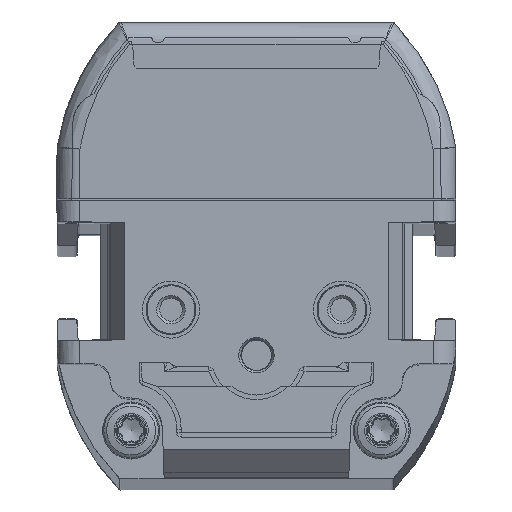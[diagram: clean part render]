
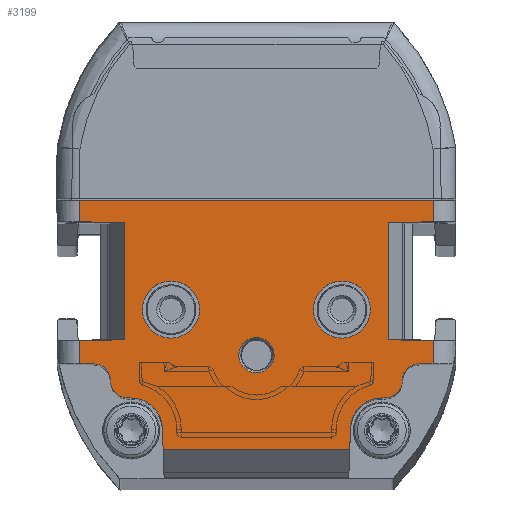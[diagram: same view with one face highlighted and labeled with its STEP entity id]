
A CAD part, top view. The second image highlights one B-rep face of the part: STEP entity #3199.
In plain terms, the highlighted planar face has unit normal (0, 0, 1).
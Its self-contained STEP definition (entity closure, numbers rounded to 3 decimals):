
#1297=FACE_BOUND('',#5329,.T.);
#1298=FACE_BOUND('',#5330,.T.);
#1299=FACE_BOUND('',#5331,.T.);
#1300=FACE_BOUND('',#5332,.T.);
#1824=CIRCLE('',#16890,1.5);
#1825=CIRCLE('',#16892,1.5);
#1826=CIRCLE('',#16895,2.75);
#1841=CIRCLE('',#16962,1.5);
#1842=CIRCLE('',#16964,1.5);
#1844=CIRCLE('',#16974,2.75);
#1845=CIRCLE('',#16982,2.5);
#1846=CIRCLE('',#16983,2.5);
#1847=CIRCLE('',#16984,1.55);
#3199=ADVANCED_FACE('',(#1297,#1298,#1299,#1300),#3772,.T.);
#3772=PLANE('',#16985);
#5329=EDGE_LOOP('',(#8247,#8248,#8249,#8250,#8251,#8252,#8253,#8254,#8255,
#8256,#8257,#8258,#8259,#8260,#8261,#8262,#8263,#8264,#8265,#8266,#8267,
#8268,#8269,#8270,#8271,#8272));
#5330=EDGE_LOOP('',(#8273));
#5331=EDGE_LOOP('',(#8274));
#5332=EDGE_LOOP('',(#8275));
#8247=ORIENTED_EDGE('',*,*,#12813,.F.);
#8248=ORIENTED_EDGE('',*,*,#12812,.T.);
#8249=ORIENTED_EDGE('',*,*,#12809,.T.);
#8250=ORIENTED_EDGE('',*,*,#12804,.T.);
#8251=ORIENTED_EDGE('',*,*,#12998,.T.);
#8252=ORIENTED_EDGE('',*,*,#12999,.T.);
#8253=ORIENTED_EDGE('',*,*,#13000,.T.);
#8254=ORIENTED_EDGE('',*,*,#13001,.T.);
#8255=ORIENTED_EDGE('',*,*,#13002,.T.);
#8256=ORIENTED_EDGE('',*,*,#12929,.F.);
#8257=ORIENTED_EDGE('',*,*,#12940,.F.);
#8258=ORIENTED_EDGE('',*,*,#12925,.F.);
#8259=ORIENTED_EDGE('',*,*,#13003,.T.);
#8260=ORIENTED_EDGE('',*,*,#13004,.F.);
#8261=ORIENTED_EDGE('',*,*,#13005,.T.);
#8262=ORIENTED_EDGE('',*,*,#13006,.F.);
#8263=ORIENTED_EDGE('',*,*,#13007,.T.);
#8264=ORIENTED_EDGE('',*,*,#12966,.F.);
#8265=ORIENTED_EDGE('',*,*,#12964,.T.);
#8266=ORIENTED_EDGE('',*,*,#12963,.T.);
#8267=ORIENTED_EDGE('',*,*,#12959,.F.);
#8268=ORIENTED_EDGE('',*,*,#12983,.F.);
#8269=ORIENTED_EDGE('',*,*,#12978,.F.);
#8270=ORIENTED_EDGE('',*,*,#13008,.T.);
#8271=ORIENTED_EDGE('',*,*,#12823,.F.);
#8272=ORIENTED_EDGE('',*,*,#12816,.F.);
#8273=ORIENTED_EDGE('',*,*,#13009,.F.);
#8274=ORIENTED_EDGE('',*,*,#13010,.F.);
#8275=ORIENTED_EDGE('',*,*,#13011,.T.);
#10962=VERTEX_POINT('',#30975);
#10963=VERTEX_POINT('',#30976);
#10966=VERTEX_POINT('',#30993);
#10967=VERTEX_POINT('',#30997);
#10968=VERTEX_POINT('',#31001);
#10969=VERTEX_POINT('',#31005);
#10976=VERTEX_POINT('',#31021);
#11060=VERTEX_POINT('',#31290);
#11064=VERTEX_POINT('',#31298);
#11067=VERTEX_POINT('',#31306);
#11068=VERTEX_POINT('',#31308);
#11086=VERTEX_POINT('',#31543);
#11087=VERTEX_POINT('',#31544);
#11088=VERTEX_POINT('',#31549);
#11089=VERTEX_POINT('',#31553);
#11090=VERTEX_POINT('',#31557);
#11099=VERTEX_POINT('',#31772);
#11100=VERTEX_POINT('',#31774);
#11111=VERTEX_POINT('',#31813);
#11112=VERTEX_POINT('',#31815);
#11113=VERTEX_POINT('',#31817);
#11114=VERTEX_POINT('',#31819);
#11115=VERTEX_POINT('',#31822);
#11116=VERTEX_POINT('',#31824);
#11117=VERTEX_POINT('',#31826);
#11118=VERTEX_POINT('',#31828);
#11119=VERTEX_POINT('',#31832);
#11120=VERTEX_POINT('',#31834);
#11121=VERTEX_POINT('',#31836);
#12804=EDGE_CURVE('',#10962,#10963,#14477,.T.);
#12809=EDGE_CURVE('',#10966,#10962,#1824,.T.);
#12812=EDGE_CURVE('',#10967,#10966,#1825,.T.);
#12813=EDGE_CURVE('',#10967,#10968,#14481,.T.);
#12816=EDGE_CURVE('',#10968,#10969,#1826,.T.);
#12823=EDGE_CURVE('',#10969,#10976,#14487,.T.);
#12925=EDGE_CURVE('',#11064,#11060,#14555,.T.);
#12929=EDGE_CURVE('',#11067,#11068,#14559,.T.);
#12940=EDGE_CURVE('',#11060,#11067,#14566,.T.);
#12959=EDGE_CURVE('',#11086,#11087,#14575,.T.);
#12963=EDGE_CURVE('',#11088,#11087,#1841,.T.);
#12964=EDGE_CURVE('',#11089,#11088,#1842,.T.);
#12966=EDGE_CURVE('',#11089,#11090,#14580,.T.);
#12978=EDGE_CURVE('',#11099,#11100,#14584,.T.);
#12983=EDGE_CURVE('',#11100,#11086,#1844,.T.);
#12998=EDGE_CURVE('',#10963,#11111,#14601,.T.);
#12999=EDGE_CURVE('',#11111,#11112,#14602,.T.);
#13000=EDGE_CURVE('',#11112,#11113,#14603,.T.);
#13001=EDGE_CURVE('',#11113,#11114,#14604,.T.);
#13002=EDGE_CURVE('',#11114,#11068,#14605,.T.);
#13003=EDGE_CURVE('',#11064,#11115,#14606,.T.);
#13004=EDGE_CURVE('',#11116,#11115,#14607,.T.);
#13005=EDGE_CURVE('',#11116,#11117,#14608,.T.);
#13006=EDGE_CURVE('',#11118,#11117,#14609,.T.);
#13007=EDGE_CURVE('',#11118,#11090,#14610,.T.);
#13008=EDGE_CURVE('',#11099,#10976,#14611,.T.);
#13009=EDGE_CURVE('',#11119,#11119,#1845,.T.);
#13010=EDGE_CURVE('',#11120,#11120,#1846,.T.);
#13011=EDGE_CURVE('',#11121,#11121,#1847,.T.);
#14477=LINE('',#30974,#15652);
#14481=LINE('',#31000,#15656);
#14487=LINE('',#31020,#15662);
#14555=LINE('',#31299,#15730);
#14559=LINE('',#31307,#15734);
#14566=LINE('',#31328,#15741);
#14575=LINE('',#31542,#15750);
#14580=LINE('',#31556,#15755);
#14584=LINE('',#31773,#15759);
#14601=LINE('',#31812,#15776);
#14602=LINE('',#31814,#15777);
#14603=LINE('',#31816,#15778);
#14604=LINE('',#31818,#15779);
#14605=LINE('',#31820,#15780);
#14606=LINE('',#31821,#15781);
#14607=LINE('',#31823,#15782);
#14608=LINE('',#31825,#15783);
#14609=LINE('',#31827,#15784);
#14610=LINE('',#31829,#15785);
#14611=LINE('',#31830,#15786);
#15652=VECTOR('',#19448,1.);
#15656=VECTOR('',#19464,1.);
#15662=VECTOR('',#19482,1.);
#15730=VECTOR('',#19630,1.);
#15734=VECTOR('',#19636,1.);
#15741=VECTOR('',#19659,1.);
#15750=VECTOR('',#19692,1.);
#15755=VECTOR('',#19707,1.);
#15759=VECTOR('',#19721,1.);
#15776=VECTOR('',#19760,1.);
#15777=VECTOR('',#19761,1.);
#15778=VECTOR('',#19762,1.);
#15779=VECTOR('',#19763,1.);
#15780=VECTOR('',#19764,1.);
#15781=VECTOR('',#19765,1.);
#15782=VECTOR('',#19766,1.);
#15783=VECTOR('',#19767,1.);
#15784=VECTOR('',#19768,1.);
#15785=VECTOR('',#19769,1.);
#15786=VECTOR('',#19770,1.);
#16890=AXIS2_PLACEMENT_3D('',#30992,#19454,#19455);
#16892=AXIS2_PLACEMENT_3D('',#30998,#19460,#19461);
#16895=AXIS2_PLACEMENT_3D('',#31006,#19469,#19470);
#16962=AXIS2_PLACEMENT_3D('',#31550,#19698,#19699);
#16964=AXIS2_PLACEMENT_3D('',#31552,#19702,#19703);
#16974=AXIS2_PLACEMENT_3D('',#31782,#19730,#19731);
#16982=AXIS2_PLACEMENT_3D('',#31831,#19771,#19772);
#16983=AXIS2_PLACEMENT_3D('',#31833,#19773,#19774);
#16984=AXIS2_PLACEMENT_3D('',#31835,#19775,#19776);
#16985=AXIS2_PLACEMENT_3D('',#31837,#19777,#19778);
#19448=DIRECTION('',(1.,0.,0.));
#19454=DIRECTION('',(0.,0.,-1.));
#19455=DIRECTION('',(1.,0.,0.));
#19460=DIRECTION('',(0.,0.,1.));
#19461=DIRECTION('',(1.,0.,0.));
#19464=DIRECTION('',(-1.,0.,0.));
#19469=DIRECTION('',(0.,0.,1.));
#19470=DIRECTION('',(1.,0.,0.));
#19482=DIRECTION('',(-0.035,-0.999,0.));
#19630=DIRECTION('',(1.,0.017,0.));
#19636=DIRECTION('',(1.,-0.017,0.));
#19659=DIRECTION('',(1.,0.,0.));
#19692=DIRECTION('',(-1.,0.,0.));
#19698=DIRECTION('',(0.,0.,1.));
#19699=DIRECTION('',(1.,0.,0.));
#19702=DIRECTION('',(0.,0.,-1.));
#19703=DIRECTION('',(1.,0.,0.));
#19707=DIRECTION('',(-1.,0.,0.));
#19721=DIRECTION('',(-0.035,0.999,0.));
#19730=DIRECTION('',(0.,0.,1.));
#19731=DIRECTION('',(1.,0.,0.));
#19760=DIRECTION('',(0.,1.,0.));
#19761=DIRECTION('',(-1.,0.017,0.));
#19762=DIRECTION('',(0.,1.,0.));
#19763=DIRECTION('',(1.,0.017,0.));
#19764=DIRECTION('',(0.,1.,0.));
#19765=DIRECTION('',(0.,-1.,0.));
#19766=DIRECTION('',(-1.,0.017,0.));
#19767=DIRECTION('',(0.,-1.,0.));
#19768=DIRECTION('',(1.,0.017,0.));
#19769=DIRECTION('',(0.,-1.,0.));
#19770=DIRECTION('',(1.,0.,0.));
#19771=DIRECTION('',(0.,0.,1.));
#19772=DIRECTION('',(1.,0.,0.));
#19773=DIRECTION('',(0.,0.,1.));
#19774=DIRECTION('',(1.,0.,0.));
#19775=DIRECTION('',(0.,0.,-1.));
#19776=DIRECTION('',(1.,0.,0.));
#19777=DIRECTION('',(0.,0.,1.));
#19778=DIRECTION('',(1.,0.,0.));
#30974=CARTESIAN_POINT('',(-17.5,10.,614.));
#30975=CARTESIAN_POINT('',(14.3,10.,614.));
#30976=CARTESIAN_POINT('',(15.5,10.,614.));
#30992=CARTESIAN_POINT('',(14.3,8.5,614.));
#30993=CARTESIAN_POINT('',(12.8,8.5,614.));
#30997=CARTESIAN_POINT('',(11.3,7.,614.));
#30998=CARTESIAN_POINT('',(11.3,8.5,614.));
#31000=CARTESIAN_POINT('',(23.25,7.,614.));
#31001=CARTESIAN_POINT('',(11.002,7.,614.));
#31005=CARTESIAN_POINT('',(8.253,4.346,614.));
#31006=CARTESIAN_POINT('',(11.002,4.25,614.));
#31020=CARTESIAN_POINT('',(8.25,4.25,614.));
#31021=CARTESIAN_POINT('',(8.189,2.5,614.));
#31290=CARTESIAN_POINT('',(-13.025,24.36,614.));
#31298=CARTESIAN_POINT('',(-15.5,24.317,614.));
#31299=CARTESIAN_POINT('',(-17.924,24.275,614.));
#31306=CARTESIAN_POINT('',(13.025,24.36,614.));
#31307=CARTESIAN_POINT('',(-17.066,24.886,614.));
#31308=CARTESIAN_POINT('',(15.5,24.317,614.));
#31328=CARTESIAN_POINT('',(-17.5,24.36,614.));
#31542=CARTESIAN_POINT('',(-11.,7.,614.));
#31543=CARTESIAN_POINT('',(-11.002,7.,614.));
#31544=CARTESIAN_POINT('',(-11.3,7.,614.));
#31549=CARTESIAN_POINT('',(-12.8,8.5,614.));
#31550=CARTESIAN_POINT('',(-11.3,8.5,614.));
#31552=CARTESIAN_POINT('',(-14.3,8.5,614.));
#31553=CARTESIAN_POINT('',(-14.3,10.,614.));
#31556=CARTESIAN_POINT('',(-17.5,10.,614.));
#31557=CARTESIAN_POINT('',(-15.5,10.,614.));
#31772=CARTESIAN_POINT('',(-8.189,2.5,614.));
#31773=CARTESIAN_POINT('',(-8.25,4.25,614.));
#31774=CARTESIAN_POINT('',(-8.253,4.346,614.));
#31782=CARTESIAN_POINT('',(-11.002,4.25,614.));
#31812=CARTESIAN_POINT('',(15.5,0.,614.));
#31813=CARTESIAN_POINT('',(15.5,12.038,614.));
#31814=CARTESIAN_POINT('',(-17.28,12.61,614.));
#31815=CARTESIAN_POINT('',(11.55,12.107,614.));
#31816=CARTESIAN_POINT('',(11.55,0.,614.));
#31817=CARTESIAN_POINT('',(11.55,22.393,614.));
#31818=CARTESIAN_POINT('',(-17.882,21.88,614.));
#31819=CARTESIAN_POINT('',(15.5,22.462,614.));
#31820=CARTESIAN_POINT('',(15.5,0.,614.));
#31821=CARTESIAN_POINT('',(-15.5,0.,614.));
#31822=CARTESIAN_POINT('',(-15.5,22.462,614.));
#31823=CARTESIAN_POINT('',(-17.107,22.49,614.));
#31824=CARTESIAN_POINT('',(-11.55,22.393,614.));
#31825=CARTESIAN_POINT('',(-11.55,0.,614.));
#31826=CARTESIAN_POINT('',(-11.55,12.107,614.));
#31827=CARTESIAN_POINT('',(-17.709,11.999,614.));
#31828=CARTESIAN_POINT('',(-15.5,12.038,614.));
#31829=CARTESIAN_POINT('',(-15.5,0.,614.));
#31830=CARTESIAN_POINT('',(-17.5,2.5,614.));
#31831=CARTESIAN_POINT('',(-7.5,14.75,614.));
#31832=CARTESIAN_POINT('',(-5.,14.75,614.));
#31833=CARTESIAN_POINT('',(7.5,14.75,614.));
#31834=CARTESIAN_POINT('',(10.,14.75,614.));
#31835=CARTESIAN_POINT('',(0.,10.75,614.));
#31836=CARTESIAN_POINT('',(1.55,10.75,614.));
#31837=CARTESIAN_POINT('',(-17.5,0.,614.));
